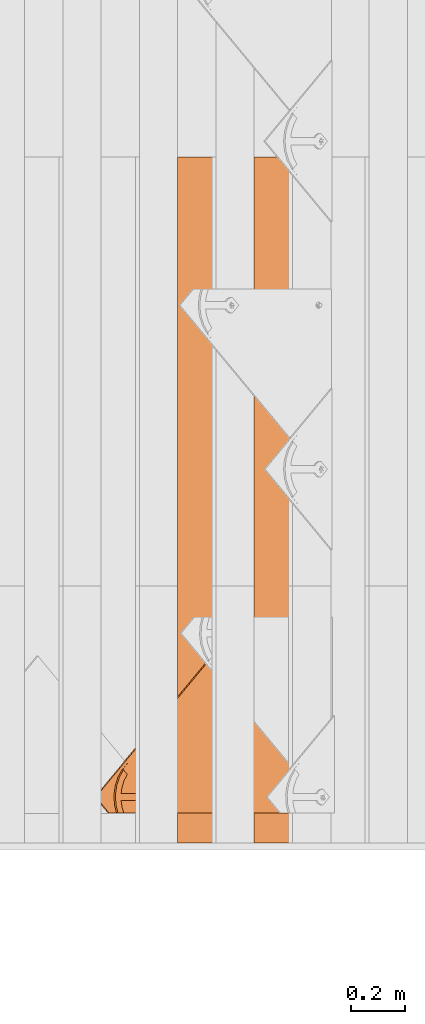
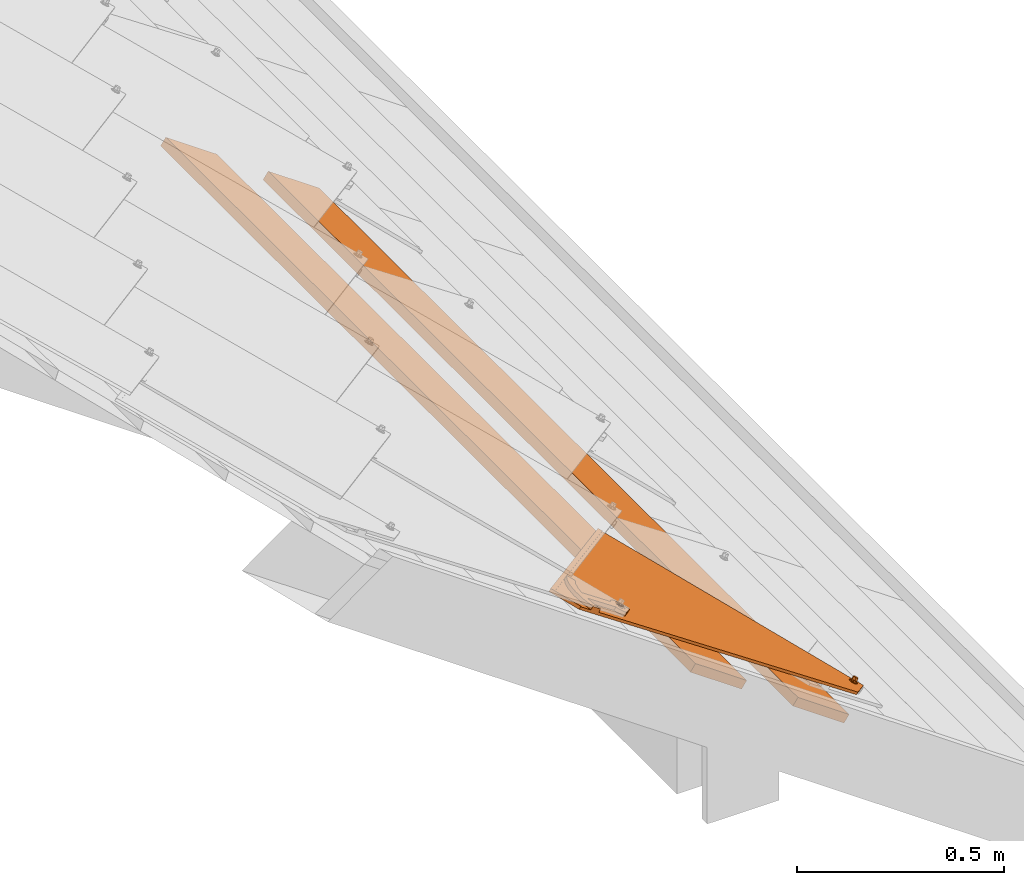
# One storey, part 99 of 151: 3 proxies, 1 element without a shape of its own.
"""IFC2X3 building model written with IfcOpenShell, lengths in millimetres."""

from ifc_helpers import new_model, entity, si_unit, converted_unit, derived_unit, direction, frame, frame_2d, origin, place, context, subcontext, project, spatial, rectangle, extrude, faceted_brep, source, transform, mapped, material, material_list, type_object, type_shapes, element, aggregate, save


model = new_model("IFC2X3")

# Units and contexts
model_context = context("Model", 3, precision=0.01, world=origin(), true_north=direction((6.12303176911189e-17, 1.0)))
body_context = subcontext(model_context, "Body", "Model", "MODEL_VIEW")
ifc_project = project(units=[si_unit("LENGTHUNIT", "METRE", prefix="MILLI"), si_unit("AREAUNIT", "SQUARE_METRE"), si_unit("VOLUMEUNIT", "CUBIC_METRE"), converted_unit("PLANEANGLEUNIT", "DEGREE", entity("IfcRatioMeasure", 0.0174532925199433), si_unit("PLANEANGLEUNIT", "RADIAN"), dimensions=[0, 0, 0, 0, 0, 0, 0]), si_unit("MASSUNIT", "GRAM", prefix="KILO"), derived_unit("MASSDENSITYUNIT", [(si_unit("MASSUNIT", "GRAM", prefix="KILO"), 1), (si_unit("LENGTHUNIT", "METRE"), -3)]), si_unit("TIMEUNIT", "SECOND"), si_unit("FREQUENCYUNIT", "HERTZ"), si_unit("THERMODYNAMICTEMPERATUREUNIT", "DEGREE_CELSIUS"), derived_unit("THERMALTRANSMITTANCEUNIT", [(si_unit("MASSUNIT", "GRAM", prefix="KILO"), 1), (si_unit("THERMODYNAMICTEMPERATUREUNIT", "KELVIN"), -1), (si_unit("TIMEUNIT", "SECOND"), -3)]), derived_unit("VOLUMETRICFLOWRATEUNIT", [(si_unit("LENGTHUNIT", "METRE"), 3), (si_unit("TIMEUNIT", "SECOND"), -1)]), si_unit("ELECTRICCURRENTUNIT", "AMPERE"), si_unit("ELECTRICVOLTAGEUNIT", "VOLT"), si_unit("POWERUNIT", "WATT"), si_unit("FORCEUNIT", "NEWTON", prefix="KILO"), si_unit("ILLUMINANCEUNIT", "LUX"), si_unit("LUMINOUSFLUXUNIT", "LUMEN"), si_unit("LUMINOUSINTENSITYUNIT", "CANDELA"), derived_unit("USERDEFINED", [(si_unit("MASSUNIT", "GRAM", prefix="KILO"), -1), (si_unit("LENGTHUNIT", "METRE"), -2), (si_unit("TIMEUNIT", "SECOND"), 3), (si_unit("LUMINOUSFLUXUNIT", "LUMEN"), 1)]), derived_unit("LINEARVELOCITYUNIT", [(si_unit("LENGTHUNIT", "METRE"), 1), (si_unit("TIMEUNIT", "SECOND"), -1)]), si_unit("PRESSUREUNIT", "PASCAL"), derived_unit("USERDEFINED", [(si_unit("LENGTHUNIT", "METRE"), -2), (si_unit("MASSUNIT", "GRAM", prefix="KILO"), 1), (si_unit("TIMEUNIT", "SECOND"), -2)])], contexts=[model_context])

# Site, building, storey
site_placement = place(None, origin())
site = spatial("IfcSite", under=ifc_project, at=site_placement, Name="Default", CompositionType="ELEMENT")
building_placement = place(site_placement, origin())
building = spatial("IfcBuilding", under=site, at=building_placement, CompositionType="ELEMENT")
storey_placement = place(building_placement, origin())
storey = spatial("IfcBuildingStorey", under=building, at=storey_placement, Name="Level 1", CompositionType="ELEMENT", Elevation=0.0)

# Assembly, proxies
assembly_placement = place(storey_placement, origin())
assembly = element("IfcElementAssembly", 1, at=assembly_placement, inside=storey, Name="Structural Framing Assembly:Roof Construction Assembly", ObjectType="Structural Framing Assembly:Roof Construction Assembly", AssemblyPlace="NOTDEFINED", PredefinedType="USERDEFINED")
ifc_material_1 = material(Name="Wood - Generic - Wood For Showcase")
building_element_proxy_type_1 = type_object("IfcBuildingElementProxyType", Name="Structural Framing 15", PredefinedType="NOTDEFINED", material=ifc_material_1)
shared_shape_1 = source(origin(), body_context, "Body", "SweptSolid", [
    extrude(rectangle(XDim=24.9999999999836, YDim=174.344679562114, at=frame_2d((3.73923114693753e-13, 6.3948846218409e-14), x_axis=(1.0, 0.0))), frame((1285.35601305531, 1437.09519417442, 2760.23940055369), z_axis=(0.0, 1.0, 0.0), x_axis=(0.573576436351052, 0.0, 0.819152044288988)), (0.0, 0.0, 1.0), 2558.45560797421),
])
type_shapes(building_element_proxy_type_1, [shared_shape_1])
proxy_1_placement = place(assembly_placement, frame((2770.96908392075, -8140.0, -1900.0)))
proxy_1 = element("IfcBuildingElementProxy", 2, at=proxy_1_placement, type_object=building_element_proxy_type_1, material=ifc_material_1, Name="Structural Framing 253:Structural Framing 15", ObjectType="Structural Framing 253:Structural Framing 15", context=body_context, shape_type="MappedRepresentation", body=[
    mapped(shared_shape_1, transform((0.0, 0.0, 0.0), scale=1.0)),
])
building_element_proxy_type_2 = type_object("IfcBuildingElementProxyType", Name="Structural Framing 15", PredefinedType="NOTDEFINED", material=ifc_material_1)
shared_shape_2 = source(origin(), body_context, "Body", "SweptSolid", [
    extrude(rectangle(XDim=24.9999999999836, YDim=174.344679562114, at=frame_2d((3.73923114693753e-13, 6.3948846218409e-14), x_axis=(1.0, 0.0))), frame((1285.35601305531, 1437.09519417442, 2760.23940055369), z_axis=(0.0, 1.0, 0.0), x_axis=(0.573576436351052, 0.0, 0.819152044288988)), (0.0, 0.0, 1.0), 2558.45560797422),
])
type_shapes(building_element_proxy_type_2, [shared_shape_2])
proxy_2_placement = place(assembly_placement, frame((3056.5986852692, -8140.0, -2100.0)))
proxy_2 = element("IfcBuildingElementProxy", 3, at=proxy_2_placement, type_object=building_element_proxy_type_2, material=ifc_material_1, Name="Structural Framing 263:Structural Framing 15", ObjectType="Structural Framing 263:Structural Framing 15", context=body_context, shape_type="MappedRepresentation", body=[
    mapped(shared_shape_2, transform((0.0, 0.0, 0.0), scale=1.0)),
])
aggregate(assembly, [proxy_1, proxy_2])

# Proxy
ifc_material_2 = material(Name="Rubber - Sunstyle - Black")
ifc_material_3 = material(Name="Glass - Sunstyle - Tainted Black")
ifc_material_list_1 = material_list([ifc_material_2, ifc_material_3])
ifc_material_list_2 = material_list([ifc_material_2, ifc_material_3])
building_element_proxy_type_3 = type_object("IfcBuildingElementProxyType", Name="Shingle Left - Black", PredefinedType="NOTDEFINED", material=ifc_material_list_2)
shared_shape_3 = source(origin(), body_context, "Body", "Brep", [
    faceted_brep([(0.0, -484.792260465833, 4.00636906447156), (-5.77420283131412, -488.125530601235, 4.06219304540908), (-5.77420283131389, -487.757221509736, 26.0540623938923), (0.0, -484.423951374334, 25.9982384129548), (-5.77420283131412, -494.792070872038, 4.17384100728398), (-5.7742028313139, -494.42376178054, 26.1657103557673), (0.0, -498.12534100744, 4.22966498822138), (0.0, -497.757031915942, 26.2215343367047), (5.77420283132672, -494.792070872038, 4.17384100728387), (5.77420283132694, -494.42376178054, 26.1657103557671), (5.77420283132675, -488.125530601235, 4.06219304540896), (5.77420283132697, -487.757221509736, 26.0540623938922), (-8.60370416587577, -499.692989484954, 26.2539568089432), (0.0, -503.256260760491, 26.3136327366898), (-12.1674751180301, -491.090491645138, 26.1098863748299), (-8.60370416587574, -482.487993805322, 25.9658159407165), (0.0, -478.924722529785, 25.9061400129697), (8.60370416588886, -482.487993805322, 25.9658159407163), (12.1674751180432, -491.090491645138, 26.1098863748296), (8.60370416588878, -499.692989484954, 26.253956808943), (-11.324244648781, -488.795414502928, 28.4227283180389), (-9.75647455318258, -491.019476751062, 30.3502110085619), (0.0, -483.706401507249, 30.9829114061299), (0.0, -482.465903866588, 30.4025647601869), (0.0, -480.308353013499, 29.3931896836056), (0.0, -502.700216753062, 27.5886907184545), (0.0, -501.756640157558, 29.7523951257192), (0.0, -498.307264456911, 31.2274395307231), (0.0, -479.437758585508, 27.1991024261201), (-6.32324569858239, -494.657048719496, 31.1663074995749), (-6.32324569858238, -487.356617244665, 31.0440434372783), (11.3242446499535, -493.306834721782, 28.498283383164), (9.84888015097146, -492.093883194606, 30.2713428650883), (6.32324569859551, -487.356617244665, 31.0440434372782), (6.32324569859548, -494.657048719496, 31.1663074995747), (-6.32324569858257, -494.523020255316, 39.1691956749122), (0.0, -498.173235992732, 39.2303277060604), (0.0, -490.8728045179, 39.1080636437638), (-6.32324569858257, -487.222588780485, 39.0469316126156), (6.32324569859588, -494.523020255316, 39.1691956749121), (6.32324569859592, -487.222588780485, 39.0469316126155), (0.0, -483.572373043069, 38.9857995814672), (0.0, -491.458800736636, 4.11801702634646)], [[[0, 1, 2, 3]], [[1, 4, 5, 2]], [[4, 6, 7, 5]], [[6, 8, 9, 7]], [[8, 10, 11, 9]], [[10, 0, 3, 11]], [[12, 7, 13]], [[7, 12, 5]], [[14, 5, 12]], [[5, 14, 2]], [[15, 2, 14]], [[3, 2, 15]], [[15, 16, 3]], [[16, 17, 3]], [[11, 3, 17]], [[11, 17, 18]], [[9, 11, 18]], [[18, 19, 9]], [[7, 9, 19]], [[19, 13, 7]], [[20, 14, 12]], [[21, 22, 23, 24]], [[24, 20, 21]], [[25, 20, 12]], [[26, 27, 21]], [[15, 14, 20]], [[12, 13, 25]], [[20, 28, 15]], [[28, 20, 24]], [[21, 27, 29]], [[21, 29, 30]], [[26, 21, 20]], [[20, 25, 26]], [[15, 28, 16]], [[21, 30, 22]], [[31, 18, 17]], [[28, 31, 17]], [[32, 27, 26]], [[26, 31, 32]], [[26, 25, 31]], [[25, 19, 31]], [[17, 16, 28]], [[31, 19, 18]], [[24, 31, 28]], [[33, 34, 32]], [[23, 22, 33]], [[24, 32, 31]], [[27, 32, 34]], [[32, 23, 33]], [[19, 25, 13]], [[32, 24, 23]], [[35, 36, 37]], [[37, 38, 35]], [[36, 39, 37]], [[40, 37, 39]], [[37, 40, 41]], [[37, 41, 38]], [[42, 6, 4]], [[4, 1, 42]], [[1, 0, 42]], [[42, 8, 6]], [[0, 10, 42]], [[8, 42, 10]], [[22, 30, 38, 41]], [[30, 29, 35, 38]], [[29, 27, 36, 35]], [[27, 34, 39, 36]], [[34, 33, 40, 39]], [[33, 22, 41, 40]]]),
    faceted_brep([(0.0, 284.339364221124, 20.2838091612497), (0.0, 288.838732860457, 20.2084559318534), (-8.60370416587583, 287.902635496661, 20.224133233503), (8.60370416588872, 287.902635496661, 20.2241332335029), (6.64022859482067, 292.671933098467, 20.1442593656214), (12.1674751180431, 296.505133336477, 20.0800627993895), (6.64022859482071, 300.338333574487, 20.0158662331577), (8.6037041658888, 305.107631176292, 19.9359923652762), (0.0, 304.171533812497, 19.9516696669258), (0.0, 308.670902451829, 19.8763164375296), (-8.60370416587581, 305.107631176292, 19.9359923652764), (-6.64022859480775, 300.338333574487, 20.0158662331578), (-12.1674751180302, 296.505133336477, 20.0800627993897), (-6.64022859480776, 292.671933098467, 20.1442593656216), (-6.64022823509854, 300.070410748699, 4.01810959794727), (0.0, 303.90361077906, 3.95391303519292), (-6.64022823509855, 292.404010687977, 4.14650272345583), (0.0, 288.570810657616, 4.21069928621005), (6.64022823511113, 292.404010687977, 4.1465027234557), (6.64022823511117, 300.070410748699, 4.01810959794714), (-8.603704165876, 287.634712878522, 4.22637659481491), (0.0, 284.071441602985, 4.28605252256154), (-12.1674751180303, 296.237210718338, 4.08230616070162), (-8.60370416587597, 304.839708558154, 3.93823572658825), (0.0, 308.402979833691, 3.87855979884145), (8.60370416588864, 304.839708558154, 3.93823572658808), (12.1674751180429, 296.237210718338, 4.08230616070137), (8.60370416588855, 287.634712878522, 4.22637659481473)], [[[0, 1, 2]], [[1, 0, 3]], [[3, 4, 1]], [[4, 3, 5]], [[6, 4, 5]], [[5, 7, 6]], [[7, 8, 6]], [[8, 7, 9]], [[8, 9, 10]], [[10, 11, 8]], [[12, 11, 10]], [[2, 13, 12]], [[12, 13, 11]], [[13, 2, 1]], [[8, 11, 14, 15]], [[11, 13, 16, 14]], [[13, 1, 17, 16]], [[1, 4, 18, 17]], [[4, 6, 19, 18]], [[6, 8, 15, 19]], [[20, 17, 21]], [[17, 20, 16]], [[22, 16, 20]], [[14, 16, 22]], [[23, 14, 22]], [[15, 14, 23]], [[23, 24, 15]], [[24, 25, 15]], [[19, 15, 25]], [[19, 25, 26]], [[26, 18, 19]], [[26, 27, 18]], [[17, 18, 27]], [[27, 21, 17]], [[24, 23, 10, 9]], [[10, 23, 22, 12]], [[20, 21, 0, 2]], [[20, 2, 12, 22]], [[21, 27, 3, 0]], [[3, 27, 26, 5]], [[25, 24, 9, 7]], [[25, 7, 5, 26]]]),
    faceted_brep([(518.309865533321, -8.21171787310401, 16.4411500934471), (526.794551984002, 0.272968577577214, 16.299052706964), (526.794551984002, 0.298086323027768, 17.798842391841), (518.309865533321, -8.18660012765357, 17.9409397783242), (0.0, 509.952813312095, 7.76318349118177), (-51.6190674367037, 458.348219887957, 8.62743202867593), (-60.1037538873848, 466.832906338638, 8.48533464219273), (0.0, 526.919807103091, 7.47902856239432), (0.0, 526.944924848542, 8.97881824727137), (-60.1037538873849, 466.858024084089, 9.98512432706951), (-51.6190674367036, 458.373337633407, 10.1272217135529), (0.0, 509.977931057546, 9.26297317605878)], [[[0, 1, 2, 3]], [[1, 0, 4, 5, 6, 7]], [[2, 1, 7, 8]], [[3, 2, 8, 9, 10, 11]], [[0, 3, 11, 4]], [[5, 10, 9, 6]], [[8, 7, 6, 9]], [[4, 11, 10, 5]]]),
    faceted_brep([(3.08877637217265, 308.328619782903, 11.1398870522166), (0.0, 526.91980710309, 7.47902856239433), (-60.1037538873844, 466.832906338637, 8.48533464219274), (5.98294783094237, 307.129982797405, 11.1599612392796), (-0.0170521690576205, 308.737452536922, 11.133040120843), (8.46822920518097, 305.223226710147, 11.1918946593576), (10.3752526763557, 302.738293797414, 11.2335111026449), (11.5740577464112, 299.844528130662, 11.2819744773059), (526.794551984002, 0.272968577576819, 16.299052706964), (11.9829478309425, 296.739135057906, 11.3339820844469), (11.5740577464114, 293.63374198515, 11.3859896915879), (10.3752526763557, 290.739976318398, 11.4344530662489), (8.46822920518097, 288.255043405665, 11.4760695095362), (5.9829478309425, 286.348287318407, 11.5080029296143), (3.08877637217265, 285.149650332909, 11.5280771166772), (2.03352718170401, -483.329519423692, 24.3981910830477), (-60.1037538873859, -466.286969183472, 24.112770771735), (-0.0170521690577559, 284.74081757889, 11.5349240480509), (-3.12288071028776, 285.149650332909, 11.5280771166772), (-6.01705216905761, 286.348287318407, 11.5080029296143), (-8.50233354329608, 288.255043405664, 11.4760695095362), (-10.409357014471, 290.739976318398, 11.4344530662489), (-11.6081620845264, 293.63374198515, 11.3859896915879), (-12.0170521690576, 296.739135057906, 11.3339820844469), (-11.6081620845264, 299.844528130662, 11.2819744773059), (-10.4093570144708, 302.738293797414, 11.2335111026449), (-8.50233354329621, 305.223226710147, 11.1918946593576), (-6.01705216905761, 307.129982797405, 11.1599612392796), (-3.12288071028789, 308.328619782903, 11.1398870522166), (-0.0370251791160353, -483.056964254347, 24.3936264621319), (-2.10757753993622, -483.329519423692, 24.3981910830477), (-4.03702517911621, -484.128610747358, 24.411573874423), (-5.69387942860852, -485.399781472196, 24.4328628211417), (-6.96522840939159, -487.056403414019, 24.4606071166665), (-7.76443178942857, -488.985580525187, 24.4929160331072), (-8.03702517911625, -491.055842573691, 24.5275877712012), (-7.76443178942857, -493.126104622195, 24.5622595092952), (-6.96522840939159, -495.055281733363, 24.5945684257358), (0.0, -526.373869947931, 25.1190768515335), (-5.69387942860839, -496.711903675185, 24.6223127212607), (-4.03702517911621, -497.983074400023, 24.6436016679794), (-2.10757753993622, -498.782165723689, 24.6569844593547), (-0.0370251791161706, -499.054720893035, 24.6615490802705), (2.03352718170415, -498.782165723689, 24.6569844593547), (3.96297482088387, -497.983074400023, 24.6436016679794), (5.61982907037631, -496.711903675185, 24.6223127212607), (6.89117805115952, -495.055281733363, 24.5945684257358), (7.6903814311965, -493.126104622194, 24.5622595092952), (3.96297482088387, -484.128610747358, 24.411573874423), (5.61982907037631, -485.399781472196, 24.4328628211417), (6.89117805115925, -487.056403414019, 24.4606071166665), (7.6903814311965, -488.985580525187, 24.4929160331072), (7.96297482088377, -491.055842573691, 24.5275877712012), (-60.1037538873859, -466.412557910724, 16.6138223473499), (-6.96522840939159, -487.181992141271, 16.9616586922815), (-7.7644317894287, -489.111169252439, 16.9939676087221), (-5.69387942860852, -485.525370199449, 16.9339143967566), (-8.03702517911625, -491.181431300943, 17.0286393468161), (-7.76443178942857, -493.251693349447, 17.0633110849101), (-6.96522840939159, -495.180870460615, 17.0956200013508), (0.0, -526.499458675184, 17.6201284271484), (-4.03702517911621, -484.254199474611, 16.9126254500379), (-2.10757753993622, -483.455108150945, 16.8992426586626), (-0.0370251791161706, -483.182552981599, 16.8946780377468), (2.03352718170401, -483.455108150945, 16.8992426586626), (3.08877637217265, 285.024061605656, 4.02912869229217), (-0.0170521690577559, 284.615228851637, 4.03597562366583), (-3.12288071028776, 285.024061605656, 4.02912869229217), (-6.01705216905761, 286.222698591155, 4.00905450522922), (-8.50233354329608, 288.129454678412, 3.97712108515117), (-10.409357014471, 290.614387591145, 3.93550464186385), (-11.6081620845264, 293.508153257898, 3.88704126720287), (-60.1037538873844, 466.707317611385, 0.986386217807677), (-12.0170521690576, 296.613546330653, 3.83503366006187), (-11.6081620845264, 299.718939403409, 3.78302605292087), (-10.4093570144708, 302.612705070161, 3.73456267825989), (-8.50233354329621, 305.097637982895, 3.69294623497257), (-6.01705216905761, 307.004394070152, 3.66101281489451), (-3.12288071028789, 308.203031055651, 3.64093862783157), (-0.0170521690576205, 308.61186380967, 3.63409169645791), (3.08877637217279, 308.203031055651, 3.64093862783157), (0.0, 526.794218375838, -0.0199198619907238), (5.98294783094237, 307.004394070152, 3.66101281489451), (8.46822920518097, 305.097637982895, 3.69294623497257), (10.3752526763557, 302.612705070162, 3.73456267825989), (11.5740577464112, 299.718939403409, 3.78302605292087), (526.794551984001, 0.147379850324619, 8.8001042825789), (3.96297482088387, -484.254199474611, 16.9126254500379), (5.61982907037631, -485.525370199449, 16.9339143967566), (7.6903814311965, -493.251693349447, 17.0633110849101), (7.96297482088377, -491.181431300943, 17.0286393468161), (7.6903814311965, -489.111169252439, 16.9939676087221), (6.89117805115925, -487.181992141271, 16.9616586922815), (5.9829478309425, 286.222698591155, 4.00905450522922), (8.46822920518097, 288.129454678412, 3.97712108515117), (11.9829478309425, 296.613546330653, 3.83503366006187), (11.5740577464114, 293.508153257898, 3.88704126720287), (10.3752526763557, 290.614387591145, 3.93550464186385), (-5.69387942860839, -496.837492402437, 17.1233642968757), (-4.03702517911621, -498.108663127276, 17.1446532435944), (-2.10757753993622, -498.907754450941, 17.1580360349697), (-0.0370251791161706, -499.180309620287, 17.1626006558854), (2.03352718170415, -498.907754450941, 17.1580360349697), (3.96297482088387, -498.108663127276, 17.1446532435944), (5.61982907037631, -496.837492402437, 17.1233642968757), (6.89117805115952, -495.180870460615, 17.0956200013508)], [[[0, 1, 2]], [[0, 3, 1]], [[4, 0, 2]], [[1, 3, 5]], [[6, 1, 5]], [[7, 1, 6]], [[7, 8, 1]], [[9, 8, 7]], [[8, 9, 10]], [[8, 10, 11]], [[11, 12, 8]], [[12, 13, 8]], [[13, 14, 8]], [[14, 15, 8]], [[14, 16, 15]], [[16, 14, 17]], [[16, 17, 18]], [[16, 18, 19]], [[20, 16, 19]], [[20, 21, 16]], [[21, 22, 16]], [[23, 2, 22]], [[2, 16, 22]], [[23, 24, 2]], [[25, 2, 24]], [[25, 26, 2]], [[26, 27, 2]], [[28, 2, 27]], [[4, 2, 28]], [[16, 29, 15]], [[29, 16, 30]], [[30, 16, 31]], [[16, 32, 31]], [[32, 16, 33]], [[33, 16, 34]], [[35, 34, 16]], [[35, 16, 36]], [[37, 36, 16]], [[16, 38, 37]], [[39, 37, 38]], [[40, 39, 38]], [[41, 40, 38]], [[38, 42, 41]], [[42, 38, 43]], [[44, 43, 38]], [[44, 38, 45]], [[46, 45, 38]], [[47, 46, 38]], [[47, 38, 8]], [[48, 8, 15]], [[48, 49, 8]], [[50, 8, 49]], [[51, 8, 50]], [[52, 47, 8]], [[52, 8, 51]], [[53, 54, 55]], [[54, 53, 56]], [[53, 55, 57]], [[57, 58, 53]], [[58, 59, 53]], [[53, 59, 60]], [[61, 56, 53]], [[62, 61, 53]], [[62, 53, 63]], [[64, 63, 53]], [[53, 65, 64]], [[65, 53, 66]], [[66, 53, 67]], [[67, 53, 68]], [[69, 68, 53]], [[70, 69, 53]], [[71, 70, 53]], [[71, 53, 72]], [[73, 71, 72]], [[74, 73, 72]], [[75, 74, 72]], [[76, 75, 72]], [[72, 77, 76]], [[78, 77, 72]], [[79, 78, 72]], [[79, 72, 80]], [[80, 72, 81]], [[82, 80, 81]], [[81, 83, 82]], [[83, 81, 84]], [[84, 81, 85]], [[86, 85, 81]], [[64, 86, 87]], [[88, 87, 86]], [[60, 89, 86]], [[90, 86, 89]], [[90, 91, 86]], [[91, 92, 86]], [[88, 86, 92]], [[65, 86, 64]], [[65, 93, 86]], [[93, 94, 86]], [[86, 95, 85]], [[95, 86, 96]], [[97, 96, 86]], [[97, 86, 94]], [[98, 60, 59]], [[98, 99, 60]], [[99, 100, 60]], [[101, 60, 100]], [[60, 101, 102]], [[60, 102, 103]], [[103, 104, 60]], [[104, 105, 60]], [[105, 89, 60]], [[2, 1, 81, 72]], [[38, 16, 53, 60]], [[8, 38, 60, 86]], [[1, 8, 86, 81]], [[35, 57, 55, 34]], [[34, 55, 54, 33]], [[31, 32, 56, 61]], [[56, 32, 33, 54]], [[30, 31, 61, 62]], [[30, 62, 63, 29]], [[29, 63, 64, 15]], [[15, 64, 87, 48]], [[50, 49, 88, 92]], [[88, 49, 48, 87]], [[51, 50, 92, 91]], [[51, 91, 90, 52]], [[52, 90, 89, 47]], [[47, 89, 105, 46]], [[44, 45, 104, 103]], [[104, 45, 46, 105]], [[43, 44, 103, 102]], [[43, 102, 101, 42]], [[42, 101, 100, 41]], [[41, 100, 99, 40]], [[37, 39, 98, 59]], [[98, 39, 40, 99]], [[36, 37, 59, 58]], [[36, 58, 57, 35]], [[23, 73, 74, 24]], [[24, 74, 75, 25]], [[27, 26, 76, 77]], [[76, 26, 25, 75]], [[28, 27, 77, 78]], [[28, 78, 79, 4]], [[4, 79, 80, 0]], [[0, 80, 82, 3]], [[6, 5, 83, 84]], [[83, 5, 3, 82]], [[7, 6, 84, 85]], [[7, 85, 95, 9]], [[9, 95, 96, 10]], [[10, 96, 97, 11]], [[13, 12, 94, 93]], [[94, 12, 11, 97]], [[14, 13, 93, 65]], [[14, 65, 66, 17]], [[17, 66, 67, 18]], [[18, 67, 68, 19]], [[21, 20, 69, 70]], [[69, 20, 19, 68]], [[22, 21, 70, 71]], [[22, 71, 73, 23]], [[16, 2, 72, 53]]]),
    faceted_brep([(-60.2957264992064, 433.002673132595, 19.0533091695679), (-60.2957264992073, 406.276440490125, 19.5009070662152), (-37.4519584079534, 414.732964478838, 19.3592813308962), (-27.2461400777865, 442.315205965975, 18.8973474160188), (-13.4919726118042, 419.124350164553, 19.2857365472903), (7.02526451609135, 444.434715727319, 18.8618509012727), (13.1080273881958, 419.12435016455, 19.2857365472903), (13.1080273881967, 322.716549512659, 20.9003273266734), (-13.4919726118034, 322.716549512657, 20.9003273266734), (-0.191972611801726, 308.510747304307, 21.1382391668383), (-3.29780115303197, 308.101914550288, 21.145086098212), (-6.19197261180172, 306.90327756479, 21.1651602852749), (-18.8960787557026, 319.178501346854, 20.9595808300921), (-8.67725398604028, 304.996521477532, 21.197093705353), (-23.3966230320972, 314.545495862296, 21.0371721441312), (-10.584277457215, 302.511588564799, 21.2387101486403), (-26.776192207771, 309.041345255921, 21.1293529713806), (-11.7830825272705, 299.617822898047, 21.2871735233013), (-28.8715253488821, 302.931945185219, 21.231670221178), (-12.1919726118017, 296.512429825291, 21.3391811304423), (-29.5814006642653, 296.512429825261, 21.3391811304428), (-11.7830825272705, 293.407036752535, 21.3911887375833), (-10.5842774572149, 290.513271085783, 21.4396521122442), (-8.67725398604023, 288.028338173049, 21.4812685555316), (-0.191972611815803, 267.127122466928, 21.8313119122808), (-6.19197261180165, 286.121582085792, 21.5132019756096), (-3.2978011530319, 284.922945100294, 21.5332761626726), (-0.19197261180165, 284.514112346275, 21.5401230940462), (2.9138559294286, 284.922945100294, 21.5332761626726), (5.80802738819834, 286.121582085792, 21.5132019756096), (8.29330876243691, 288.028338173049, 21.4812685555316), (29.197455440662, 296.512429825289, 21.3391811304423), (10.2003322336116, 290.513271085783, 21.4396521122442), (11.3991373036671, 293.407036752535, 21.3911887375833), (11.8080273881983, 296.512429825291, 21.3391811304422), (28.4875801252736, 302.931945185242, 21.2316702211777), (11.3991373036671, 299.617822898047, 21.2871735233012), (26.3922469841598, 309.041345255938, 21.1293529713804), (10.2003322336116, 302.511588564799, 21.2387101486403), (23.0126778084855, 314.545495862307, 21.037172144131), (8.29330876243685, 304.996521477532, 21.197093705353), (18.5121335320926, 319.178501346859, 20.959580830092), (5.80802738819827, 306.90327756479, 21.1651602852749), (2.91385592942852, 308.101914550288, 21.145086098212), (40.9707248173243, 439.265481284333, 18.9484227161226), (38.5777701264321, 414.309469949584, 19.3663738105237), (73.0571986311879, 427.0409551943, 19.1531531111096), (62.7323605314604, 404.905836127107, 19.523861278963), (84.7524233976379, 391.232440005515, 19.7528566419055), (101.835599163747, 408.313220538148, 19.4667960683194), (-10.5842774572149, 290.345819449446, 11.4410542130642), (-29.5814006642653, 296.344978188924, 11.3405832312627), (-11.7830825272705, 293.239585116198, 11.3925908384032), (-8.67725398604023, 287.860886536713, 11.4826706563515), (-0.191972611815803, 266.959670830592, 11.8327140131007), (-6.19197261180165, 285.954130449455, 11.5146040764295), (-3.2978011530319, 284.755493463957, 11.5346782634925), (-0.19197261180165, 284.346660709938, 11.5415251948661), (2.9138559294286, 284.755493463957, 11.5346782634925), (5.80802738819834, 285.954130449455, 11.5146040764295), (8.29330876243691, 287.860886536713, 11.4826706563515), (29.197455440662, 296.344978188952, 11.3405832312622), (10.2003322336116, 290.345819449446, 11.4410542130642), (11.3991373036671, 293.239585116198, 11.3925908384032), (11.8080273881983, 296.344978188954, 11.3405832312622), (28.4875801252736, 302.764493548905, 11.2330723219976), (11.3991373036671, 299.45037126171, 11.2885756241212), (26.3922469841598, 308.873893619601, 11.1307550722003), (10.2003322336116, 302.344136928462, 11.2401122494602), (23.0126778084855, 314.378044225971, 11.038574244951), (8.29330876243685, 304.829069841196, 11.1984958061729), (18.5121335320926, 319.011049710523, 10.960982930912), (5.80802738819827, 306.735825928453, 11.1665623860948), (13.1080273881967, 322.549097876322, 10.9017294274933), (2.91385592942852, 307.934462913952, 11.1464881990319), (-0.191972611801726, 308.34329566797, 11.1396412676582), (-13.4919726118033, 322.54909787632, 10.9017294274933), (-3.29780115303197, 307.934462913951, 11.1464881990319), (-6.19197261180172, 306.735825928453, 11.1665623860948), (-18.8960787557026, 319.011049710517, 10.9609829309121), (-8.67725398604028, 304.829069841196, 11.1984958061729), (-23.3966230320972, 314.37804422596, 11.0385742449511), (-10.584277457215, 302.344136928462, 11.2401122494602), (-26.776192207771, 308.873893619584, 11.1307550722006), (-11.7830825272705, 299.45037126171, 11.2885756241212), (-28.8715253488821, 302.764493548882, 11.233072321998), (-12.1919726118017, 296.344978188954, 11.3405832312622), (-13.4919726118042, 418.956898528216, 9.28713864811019), (13.1080273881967, 418.956898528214, 9.28713864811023), (7.02526451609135, 444.267264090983, 8.86325300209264), (-27.2461400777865, 442.147754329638, 8.89874951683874), (-37.4519584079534, 414.565512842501, 9.36068343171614), (-60.2957264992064, 432.835221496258, 9.05471127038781), (-60.2957264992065, 406.108988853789, 9.5023091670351), (40.9707248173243, 439.098029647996, 8.94982481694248), (38.5777701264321, 414.142018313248, 9.36777591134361), (73.0571986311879, 426.873503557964, 9.15455521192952), (62.7323605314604, 404.738384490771, 9.5252633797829), (84.9699227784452, 391.282457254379, 9.75061668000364), (101.363550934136, 407.672574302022, 9.47612300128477), (101.835599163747, 408.145768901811, 9.46819816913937), (107.666988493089, 402.274283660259, 9.56653093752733), (113.684870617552, 396.559480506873, 9.66223967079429), (108.027097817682, 368.228515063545, 10.1367128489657), (125.024248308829, 385.223282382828, 9.85209278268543), (84.7524233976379, 391.064988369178, 9.75425874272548), (125.024248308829, 385.265145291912, 12.3517422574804), (113.684870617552, 396.601343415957, 12.1618891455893), (107.666988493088, 402.316146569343, 12.0661804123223), (101.362944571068, 407.715043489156, 11.975762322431), (84.9693798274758, 391.324863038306, 12.2502570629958), (108.027097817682, 368.270377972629, 12.6363623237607)], [[[0, 1, 2]], [[0, 2, 3]], [[2, 4, 3]], [[3, 4, 5]], [[5, 4, 6]], [[7, 6, 4]], [[7, 4, 8]], [[9, 7, 8]], [[9, 8, 10]], [[10, 8, 11]], [[12, 11, 8]], [[11, 12, 13]], [[14, 13, 12]], [[13, 14, 15]], [[15, 14, 16]], [[17, 15, 16]], [[18, 17, 16]], [[18, 19, 17]], [[19, 18, 20]], [[20, 21, 19]], [[20, 22, 21]], [[22, 20, 23]], [[23, 20, 24]], [[24, 25, 23]], [[26, 25, 24]], [[24, 27, 26]], [[28, 27, 24]], [[28, 24, 29]], [[30, 29, 24]], [[30, 24, 31]], [[31, 32, 30]], [[33, 32, 31]], [[31, 34, 33]], [[35, 34, 31]], [[34, 35, 36]], [[36, 35, 37]], [[36, 37, 38]], [[38, 37, 39]], [[39, 40, 38]], [[39, 41, 40]], [[7, 42, 41]], [[40, 41, 42]], [[42, 7, 43]], [[43, 7, 9]], [[44, 5, 6]], [[44, 6, 45]], [[45, 46, 44]], [[46, 45, 47]], [[47, 48, 46]], [[49, 46, 48]], [[50, 51, 52]], [[51, 50, 53]], [[54, 51, 53]], [[53, 55, 54]], [[56, 54, 55]], [[57, 54, 56]], [[57, 58, 54]], [[58, 59, 54]], [[60, 54, 59]], [[60, 61, 54]], [[60, 62, 61]], [[62, 63, 61]], [[63, 64, 61]], [[64, 65, 61]], [[65, 64, 66]], [[66, 67, 65]], [[68, 67, 66]], [[67, 68, 69]], [[69, 68, 70]], [[71, 69, 70]], [[71, 70, 72]], [[72, 73, 71]], [[72, 74, 73]], [[75, 73, 74]], [[76, 73, 75]], [[77, 76, 75]], [[76, 77, 78]], [[79, 76, 78]], [[78, 80, 79]], [[81, 79, 80]], [[81, 80, 82]], [[81, 82, 83]], [[82, 84, 83]], [[84, 85, 83]], [[86, 85, 84]], [[52, 51, 86]], [[85, 86, 51]], [[73, 76, 87]], [[88, 73, 87]], [[88, 87, 89]], [[90, 89, 87]], [[87, 91, 90]], [[91, 92, 90]], [[93, 92, 91]], [[88, 89, 94]], [[88, 94, 95]], [[96, 95, 94]], [[96, 97, 95]], [[98, 97, 96]], [[96, 99, 98]], [[96, 100, 99]], [[98, 99, 101]], [[102, 98, 101]], [[98, 102, 103]], [[104, 103, 102]], [[105, 97, 98]], [[8, 4, 87, 76]], [[12, 8, 76, 79]], [[14, 12, 79, 81]], [[81, 83, 16, 14]], [[18, 16, 83, 85]], [[20, 18, 85, 51]], [[24, 20, 51, 54]], [[31, 24, 54, 61]], [[35, 31, 61, 65]], [[37, 35, 65, 67]], [[67, 69, 39, 37]], [[41, 39, 69, 71]], [[7, 41, 71, 73]], [[6, 7, 73, 88]], [[46, 49, 100, 96]], [[44, 46, 96, 94]], [[94, 89, 5, 44]], [[3, 5, 89, 90]], [[3, 90, 92, 0]], [[19, 86, 84, 17]], [[17, 84, 82, 15]], [[11, 13, 80, 78]], [[82, 80, 13, 15]], [[10, 11, 78, 77]], [[75, 9, 10, 77]], [[43, 74, 72, 42]], [[42, 72, 70, 40]], [[36, 38, 68, 66]], [[70, 68, 38, 40]], [[34, 36, 66, 64]], [[43, 9, 75, 74]], [[34, 64, 63, 33]], [[33, 63, 62, 32]], [[29, 30, 60, 59]], [[62, 60, 30, 32]], [[28, 29, 59, 58]], [[57, 27, 28, 58]], [[26, 56, 55, 25]], [[25, 55, 53, 23]], [[21, 22, 50, 52]], [[53, 50, 22, 23]], [[19, 21, 52, 86]], [[26, 27, 57, 56]], [[106, 107, 108, 109, 110, 111]], [[107, 106, 104, 102]], [[106, 111, 103, 104]], [[107, 102, 101, 108]], [[101, 99, 109]], [[101, 109, 108]], [[111, 110, 98, 103]], [[48, 110, 109]], [[110, 48, 105]], [[49, 48, 109, 100]], [[105, 98, 110]], [[99, 100, 109]], [[93, 91, 2, 1]], [[87, 4, 2, 91]], [[88, 95, 45, 6]], [[95, 97, 47, 45]], [[97, 105, 48, 47]], [[1, 0, 92, 93]]]),
])
type_shapes(building_element_proxy_type_3, [shared_shape_3])
proxy_3_placement = place(storey_placement, frame((4113.24569785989, -6532.08237090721, 835.642849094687), z_axis=(0.573576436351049, 0.0, 0.81915204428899), x_axis=(0.0, 1.0, 0.0)))
element("IfcBuildingElementProxy", 4, at=proxy_3_placement, inside=storey, type_object=building_element_proxy_type_3, material=ifc_material_list_1, Name="Roofing_Panels_SunStyle_Tile_Shingle-Left:Shingle Left - Black", ObjectType="Roofing_Panels_SunStyle_Tile_Shingle-Left:Shingle Left - Black", context=body_context, shape_type="MappedRepresentation", body=[
    mapped(shared_shape_3, transform((0.0, 0.0, 0.0), scale=1.0)),
])

save(model, "model.ifc")
